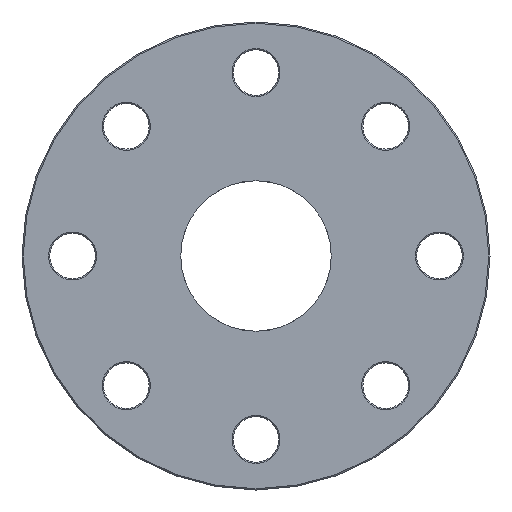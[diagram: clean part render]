
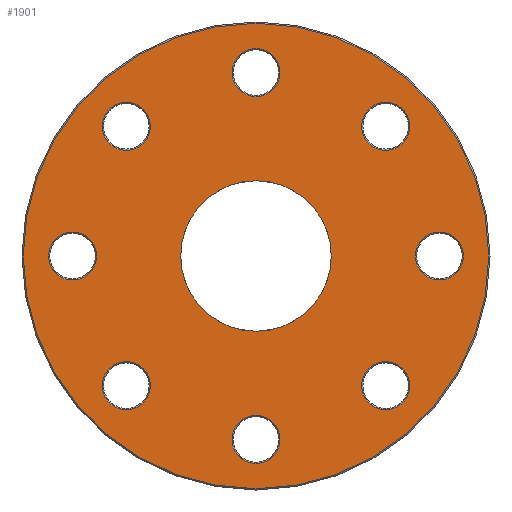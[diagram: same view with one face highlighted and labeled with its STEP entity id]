
A CAD part, front view. The second image highlights one B-rep face of the part: STEP entity #1901.
In plain terms, the highlighted planar face has unit normal (0, -1, 0).
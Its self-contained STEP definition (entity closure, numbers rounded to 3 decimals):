
#223=CARTESIAN_POINT('',(0.,-90.474,0.));
#224=DIRECTION('',(0.,1.,0.));
#225=DIRECTION('',(1.,0.,0.));
#226=AXIS2_PLACEMENT_3D('',#223,#224,#225);
#231=CARTESIAN_POINT('',(0.,-90.474,0.));
#232=DIRECTION('',(0.,1.,0.));
#233=DIRECTION('',(-1.,0.,0.));
#234=AXIS2_PLACEMENT_3D('',#231,#232,#233);
#239=CARTESIAN_POINT('',(51.265,-90.474,-51.265));
#240=DIRECTION('',(0.,1.,0.));
#241=DIRECTION('',(-1.,0.,0.));
#242=AXIS2_PLACEMENT_3D('',#239,#240,#241);
#247=CARTESIAN_POINT('',(51.265,-90.474,-51.265));
#248=DIRECTION('',(0.,1.,0.));
#249=DIRECTION('',(1.,0.,0.));
#250=AXIS2_PLACEMENT_3D('',#247,#248,#249);
#255=CARTESIAN_POINT('',(0.,-90.474,-72.5));
#256=DIRECTION('',(0.,1.,0.));
#257=DIRECTION('',(0.707,0.,-0.707));
#258=AXIS2_PLACEMENT_3D('',#255,#256,#257);
#263=CARTESIAN_POINT('',(0.,-90.474,-72.5));
#264=DIRECTION('',(0.,1.,0.));
#265=DIRECTION('',(-0.707,0.,0.707));
#266=AXIS2_PLACEMENT_3D('',#263,#264,#265);
#271=CARTESIAN_POINT('',(-51.265,-90.474,-51.265));
#272=DIRECTION('',(0.,1.,0.));
#273=DIRECTION('',(0.,0.,-1.));
#274=AXIS2_PLACEMENT_3D('',#271,#272,#273);
#279=CARTESIAN_POINT('',(-51.265,-90.474,-51.265));
#280=DIRECTION('',(0.,1.,0.));
#281=DIRECTION('',(0.,0.,1.));
#282=AXIS2_PLACEMENT_3D('',#279,#280,#281);
#287=CARTESIAN_POINT('',(-72.5,-90.474,0.));
#288=DIRECTION('',(0.,1.,0.));
#289=DIRECTION('',(-0.707,0.,-0.707));
#290=AXIS2_PLACEMENT_3D('',#287,#288,#289);
#295=CARTESIAN_POINT('',(-72.5,-90.474,0.));
#296=DIRECTION('',(0.,1.,0.));
#297=DIRECTION('',(0.707,0.,0.707));
#298=AXIS2_PLACEMENT_3D('',#295,#296,#297);
#303=CARTESIAN_POINT('',(-51.265,-90.474,51.265));
#304=DIRECTION('',(0.,1.,0.));
#305=DIRECTION('',(-1.,0.,0.));
#306=AXIS2_PLACEMENT_3D('',#303,#304,#305);
#311=CARTESIAN_POINT('',(-51.265,-90.474,51.265));
#312=DIRECTION('',(0.,1.,0.));
#313=DIRECTION('',(1.,0.,0.));
#314=AXIS2_PLACEMENT_3D('',#311,#312,#313);
#319=CARTESIAN_POINT('',(0.,-90.474,72.5));
#320=DIRECTION('',(0.,1.,0.));
#321=DIRECTION('',(0.707,0.,-0.707));
#322=AXIS2_PLACEMENT_3D('',#319,#320,#321);
#327=CARTESIAN_POINT('',(0.,-90.474,72.5));
#328=DIRECTION('',(0.,1.,0.));
#329=DIRECTION('',(-0.707,0.,0.707));
#330=AXIS2_PLACEMENT_3D('',#327,#328,#329);
#335=CARTESIAN_POINT('',(51.265,-90.474,51.265));
#336=DIRECTION('',(0.,1.,0.));
#337=DIRECTION('',(0.,0.,-1.));
#338=AXIS2_PLACEMENT_3D('',#335,#336,#337);
#343=CARTESIAN_POINT('',(51.265,-90.474,51.265));
#344=DIRECTION('',(0.,1.,0.));
#345=DIRECTION('',(0.,0.,1.));
#346=AXIS2_PLACEMENT_3D('',#343,#344,#345);
#351=CARTESIAN_POINT('',(72.5,-90.474,0.));
#352=DIRECTION('',(0.,1.,0.));
#353=DIRECTION('',(-0.707,0.,-0.707));
#354=AXIS2_PLACEMENT_3D('',#351,#352,#353);
#359=CARTESIAN_POINT('',(72.5,-90.474,0.));
#360=DIRECTION('',(0.,1.,0.));
#361=DIRECTION('',(0.707,0.,0.707));
#362=AXIS2_PLACEMENT_3D('',#359,#360,#361);
#367=CARTESIAN_POINT('',(0.,-90.474,0.));
#368=DIRECTION('',(0.,-1.,0.));
#369=DIRECTION('',(1.,0.,0.));
#370=AXIS2_PLACEMENT_3D('',#367,#368,#369);
#375=CARTESIAN_POINT('',(0.,-90.474,0.));
#376=DIRECTION('',(0.,-1.,0.));
#377=DIRECTION('',(-1.,0.,0.));
#378=AXIS2_PLACEMENT_3D('',#375,#376,#377);
#1555=CARTESIAN_POINT('',(29.752,-90.474,0.));
#1556=CARTESIAN_POINT('',(-29.752,-90.474,0.));
#1557=VERTEX_POINT('',#1555);
#1558=VERTEX_POINT('',#1556);
#1567=CARTESIAN_POINT('',(41.765,-90.474,-51.265));
#1568=CARTESIAN_POINT('',(60.765,-90.474,-51.265));
#1569=VERTEX_POINT('',#1567);
#1570=VERTEX_POINT('',#1568);
#1575=CARTESIAN_POINT('',(6.718,-90.474,-79.218));
#1576=CARTESIAN_POINT('',(-6.718,-90.474,-65.782));
#1577=VERTEX_POINT('',#1575);
#1578=VERTEX_POINT('',#1576);
#1583=CARTESIAN_POINT('',(-51.265,-90.474,-60.765));
#1584=CARTESIAN_POINT('',(-51.265,-90.474,-41.765));
#1585=VERTEX_POINT('',#1583);
#1586=VERTEX_POINT('',#1584);
#1591=CARTESIAN_POINT('',(-79.218,-90.474,-6.718));
#1592=CARTESIAN_POINT('',(-65.782,-90.474,6.718));
#1593=VERTEX_POINT('',#1591);
#1594=VERTEX_POINT('',#1592);
#1599=CARTESIAN_POINT('',(-60.765,-90.474,51.265));
#1600=CARTESIAN_POINT('',(-41.765,-90.474,51.265));
#1601=VERTEX_POINT('',#1599);
#1602=VERTEX_POINT('',#1600);
#1607=CARTESIAN_POINT('',(6.718,-90.474,65.782));
#1608=CARTESIAN_POINT('',(-6.718,-90.474,79.218));
#1609=VERTEX_POINT('',#1607);
#1610=VERTEX_POINT('',#1608);
#1615=CARTESIAN_POINT('',(51.265,-90.474,41.765));
#1616=CARTESIAN_POINT('',(51.265,-90.474,60.765));
#1617=VERTEX_POINT('',#1615);
#1618=VERTEX_POINT('',#1616);
#1623=CARTESIAN_POINT('',(65.782,-90.474,-6.718));
#1624=CARTESIAN_POINT('',(79.218,-90.474,6.718));
#1625=VERTEX_POINT('',#1623);
#1626=VERTEX_POINT('',#1624);
#1695=CARTESIAN_POINT('',(92.,-90.474,0.));
#1696=CARTESIAN_POINT('',(-92.,-90.474,0.));
#1697=VERTEX_POINT('',#1695);
#1698=VERTEX_POINT('',#1696);
#1838=CARTESIAN_POINT('',(0.,-90.474,0.));
#1839=DIRECTION('',(0.,-1.,0.));
#1840=DIRECTION('',(1.,0.,0.));
#1841=AXIS2_PLACEMENT_3D('',#1838,#1839,#1840);
#1842=PLANE('',#1841);
#1844=ORIENTED_EDGE('',*,*,#1843,.F.);
#1846=ORIENTED_EDGE('',*,*,#1845,.F.);
#1847=EDGE_LOOP('',(#1844,#1846));
#1848=FACE_OUTER_BOUND('',#1847,.F.);
#1850=ORIENTED_EDGE('',*,*,#1849,.F.);
#1852=ORIENTED_EDGE('',*,*,#1851,.F.);
#1853=EDGE_LOOP('',(#1850,#1852));
#1854=FACE_BOUND('',#1853,.F.);
#1856=ORIENTED_EDGE('',*,*,#1855,.F.);
#1858=ORIENTED_EDGE('',*,*,#1857,.F.);
#1859=EDGE_LOOP('',(#1856,#1858));
#1860=FACE_BOUND('',#1859,.F.);
#1862=ORIENTED_EDGE('',*,*,#1861,.F.);
#1864=ORIENTED_EDGE('',*,*,#1863,.F.);
#1865=EDGE_LOOP('',(#1862,#1864));
#1866=FACE_BOUND('',#1865,.F.);
#1868=ORIENTED_EDGE('',*,*,#1867,.F.);
#1870=ORIENTED_EDGE('',*,*,#1869,.F.);
#1871=EDGE_LOOP('',(#1868,#1870));
#1872=FACE_BOUND('',#1871,.F.);
#1874=ORIENTED_EDGE('',*,*,#1873,.F.);
#1876=ORIENTED_EDGE('',*,*,#1875,.F.);
#1877=EDGE_LOOP('',(#1874,#1876));
#1878=FACE_BOUND('',#1877,.F.);
#1880=ORIENTED_EDGE('',*,*,#1879,.F.);
#1882=ORIENTED_EDGE('',*,*,#1881,.F.);
#1883=EDGE_LOOP('',(#1880,#1882));
#1884=FACE_BOUND('',#1883,.F.);
#1886=ORIENTED_EDGE('',*,*,#1885,.F.);
#1888=ORIENTED_EDGE('',*,*,#1887,.F.);
#1889=EDGE_LOOP('',(#1886,#1888));
#1890=FACE_BOUND('',#1889,.F.);
#1892=ORIENTED_EDGE('',*,*,#1891,.F.);
#1894=ORIENTED_EDGE('',*,*,#1893,.F.);
#1895=EDGE_LOOP('',(#1892,#1894));
#1896=FACE_BOUND('',#1895,.F.);
#1897=ORIENTED_EDGE('',*,*,#1818,.F.);
#1898=ORIENTED_EDGE('',*,*,#1832,.F.);
#1899=EDGE_LOOP('',(#1897,#1898));
#1900=FACE_BOUND('',#1899,.F.);
#227=CIRCLE('',#226,29.752);
#235=CIRCLE('',#234,29.752);
#243=CIRCLE('',#242,9.5);
#251=CIRCLE('',#250,9.5);
#259=CIRCLE('',#258,9.5);
#267=CIRCLE('',#266,9.5);
#275=CIRCLE('',#274,9.5);
#283=CIRCLE('',#282,9.5);
#291=CIRCLE('',#290,9.5);
#299=CIRCLE('',#298,9.5);
#307=CIRCLE('',#306,9.5);
#315=CIRCLE('',#314,9.5);
#323=CIRCLE('',#322,9.5);
#331=CIRCLE('',#330,9.5);
#339=CIRCLE('',#338,9.5);
#347=CIRCLE('',#346,9.5);
#355=CIRCLE('',#354,9.5);
#363=CIRCLE('',#362,9.5);
#371=CIRCLE('',#370,92.);
#379=CIRCLE('',#378,92.);
#1818=EDGE_CURVE('',#1557,#1558,#227,.T.);
#1832=EDGE_CURVE('',#1558,#1557,#235,.T.);
#1843=EDGE_CURVE('',#1697,#1698,#371,.T.);
#1845=EDGE_CURVE('',#1698,#1697,#379,.T.);
#1849=EDGE_CURVE('',#1569,#1570,#243,.T.);
#1851=EDGE_CURVE('',#1570,#1569,#251,.T.);
#1855=EDGE_CURVE('',#1577,#1578,#259,.T.);
#1857=EDGE_CURVE('',#1578,#1577,#267,.T.);
#1861=EDGE_CURVE('',#1585,#1586,#275,.T.);
#1863=EDGE_CURVE('',#1586,#1585,#283,.T.);
#1867=EDGE_CURVE('',#1593,#1594,#291,.T.);
#1869=EDGE_CURVE('',#1594,#1593,#299,.T.);
#1873=EDGE_CURVE('',#1601,#1602,#307,.T.);
#1875=EDGE_CURVE('',#1602,#1601,#315,.T.);
#1879=EDGE_CURVE('',#1609,#1610,#323,.T.);
#1881=EDGE_CURVE('',#1610,#1609,#331,.T.);
#1885=EDGE_CURVE('',#1617,#1618,#339,.T.);
#1887=EDGE_CURVE('',#1618,#1617,#347,.T.);
#1891=EDGE_CURVE('',#1625,#1626,#355,.T.);
#1893=EDGE_CURVE('',#1626,#1625,#363,.T.);
#1901=ADVANCED_FACE('',(#1848,#1854,#1860,#1866,#1872,#1878,#1884,#1890,#1896,
#1900),#1842,.T.);
